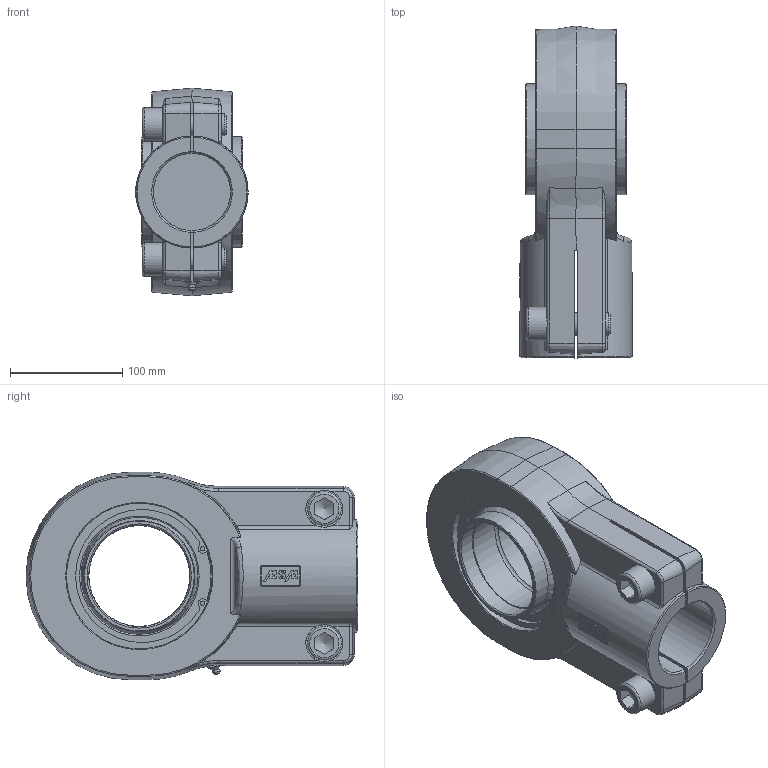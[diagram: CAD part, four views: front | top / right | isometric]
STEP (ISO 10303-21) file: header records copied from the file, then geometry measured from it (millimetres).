
FILE_DESCRIPTION((''),'2;1');
FILE_NAME('H:\WSW\Hydraulikgelenkköpfe\Aktuelle GK Zeichnungen andere Formate\WAPR..CE\WAPR..CE .STP\K-WAPR90CE.stp','2007-12-21T10:47:29',('oliver.joswig'),(''),'Autodesk Inventor 2008','Autodesk Inventor 2008','');
FILE_SCHEMA(('AUTOMOTIVE_DESIGN { 1 0 10303 214 1 1 1 1 }'));
Length unit declared in the file: millimetre
Products named in the file (8): K-WAPR90CE; F-WAPR90CE; DIN 472 130 x 4; DIN 71412  A  (Feingewinde) AM10 x 1 keg kurz; GEEW90ES; GEEW_ES_AR mit Nut [Benennung=AR_GEEW90ES][Kugel_dk=57,5mm][Breite=50mm][Radius_r1s=1mm][Aussendurchmessser=65mm]; GEEW_ES_IR mit Nut [Benennung=IR90LO][Breite=90 mm][Kugel=57,5 mm][Bund_D=49,5 mm][Freid_b=15,2 mm][Freid_D=45,5 mm][Bohr=45 mm][Fase=45 grd][R_rs=1 mm]; DIN EN ISO 4762  (Regelgewinde) M20 x 55
Assembly tree (9 placements, depth 3):
  K-WAPR90CE
    F-WAPR90CE
    DIN 472 130 x 4  x2
    DIN 71412  A  (Feingewinde) AM10 x 1 keg kurz
    GEEW90ES
      GEEW_ES_AR mit Nut [Benennung=AR_GEEW90ES][Kugel_dk=57,5mm][Breite=50mm][Radius_r1s=1mm][Aussendurchmessser=65mm]
      GEEW_ES_IR mit Nut [Benennung=IR90LO][Breite=90 mm][Kugel=57,5 mm][Bund_D=49,5 mm][Freid_b=15,2 mm][Freid_D=45,5 mm][Bohr=45 mm][Fase=45 grd][R_rs=1 mm]
    DIN EN ISO 4762  (Regelgewinde) M20 x 55  x2
Bounding box: 100 x 296 x 185 mm (x, y, z)
Volume: 2326780.8 mm3; surface area: 339430.3 mm2
Topology: 8 solids, 8 shells, 295 faces, 731 edges, 461 vertices
Faces by surface type: plane 115, cylinder 70, bspline 43, cone 42, torus 22, sphere 3
Full cylindrical faces by diameter (mm): 4 x4, 4.15 x2, 5 x1, 7.492 x2, 10 x1, 20 x2, 30 x2, 73 x1, 90 x2, 91 x2, 99 x2, 130 x5, 134 x2
Entity records: 10648 total; most frequent: CARTESIAN_POINT 4534, ORIENTED_EDGE 1190, DIRECTION 1186, EDGE_CURVE 595, AXIS2_PLACEMENT_3D 473, VERTEX_POINT 406, EDGE_LOOP 365, FACE_OUTER_BOUND 269
